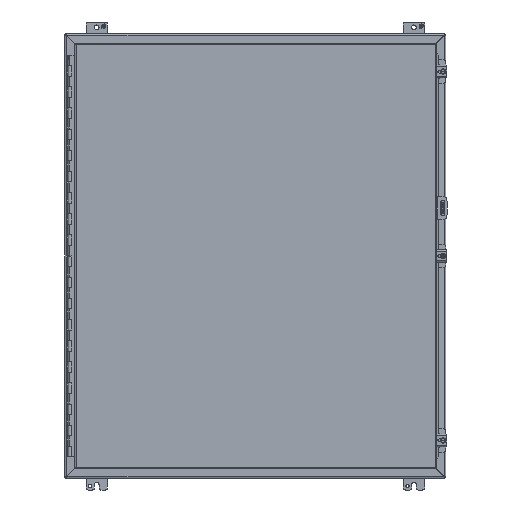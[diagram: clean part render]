
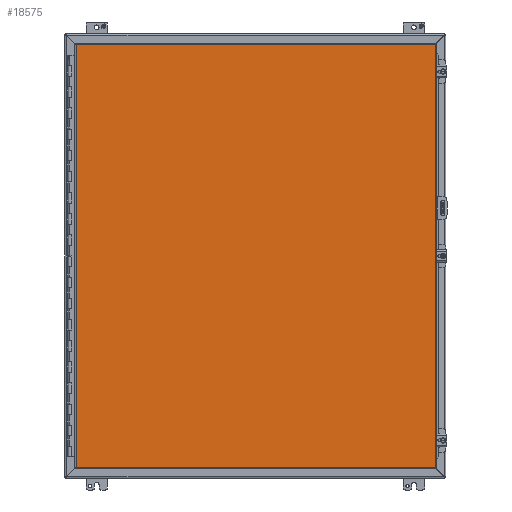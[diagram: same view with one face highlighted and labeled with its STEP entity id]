
A CAD part, front view. The second image highlights one B-rep face of the part: STEP entity #18575.
In plain terms, the highlighted planar face has unit normal (0, -1, 0).
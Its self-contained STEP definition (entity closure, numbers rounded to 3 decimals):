
#1237=LINE('',#28552,#3003);
#1238=LINE('',#28555,#3004);
#1239=LINE('',#28557,#3005);
#1240=LINE('',#28559,#3006);
#3003=VECTOR('',#22029,1000.);
#3004=VECTOR('',#22030,1000.);
#3005=VECTOR('',#22031,1000.);
#3006=VECTOR('',#22032,1000.);
#6120=ORIENTED_EDGE('',*,*,#10943,.T.);
#6121=ORIENTED_EDGE('',*,*,#10944,.T.);
#6122=ORIENTED_EDGE('',*,*,#10945,.T.);
#6123=ORIENTED_EDGE('',*,*,#10946,.T.);
#10943=EDGE_CURVE('',#13453,#13454,#1237,.T.);
#10944=EDGE_CURVE('',#13454,#13455,#1238,.T.);
#10945=EDGE_CURVE('',#13455,#13456,#1239,.T.);
#10946=EDGE_CURVE('',#13456,#13453,#1240,.T.);
#13453=VERTEX_POINT('',#28553);
#13454=VERTEX_POINT('',#28554);
#13455=VERTEX_POINT('',#28556);
#13456=VERTEX_POINT('',#28558);
#15640=EDGE_LOOP('',(#6120,#6121,#6122,#6123));
#16792=FACE_BOUND('',#15640,.T.);
#17830=PLANE('',#19830);
#18575=ADVANCED_FACE('',(#16792),#17830,.T.);
#19830=AXIS2_PLACEMENT_3D('',#28551,#22027,#22028);
#22027=DIRECTION('',(0.,-1.,0.));
#22028=DIRECTION('',(0.,0.,-1.));
#22029=DIRECTION('',(0.,0.,-1.));
#22030=DIRECTION('',(1.,0.,0.));
#22031=DIRECTION('',(0.,0.,1.));
#22032=DIRECTION('',(-1.,0.,0.));
#28551=CARTESIAN_POINT('',(-431.444,0.,-507.86));
#28552=CARTESIAN_POINT('',(-431.444,0.,507.86));
#28553=CARTESIAN_POINT('',(-431.444,0.,507.86));
#28554=CARTESIAN_POINT('',(-431.444,0.,-507.86));
#28555=CARTESIAN_POINT('',(-431.444,0.,-507.86));
#28556=CARTESIAN_POINT('',(431.444,0.,-507.86));
#28557=CARTESIAN_POINT('',(431.444,0.,-507.86));
#28558=CARTESIAN_POINT('',(431.444,0.,507.86));
#28559=CARTESIAN_POINT('',(431.444,0.,507.86));
